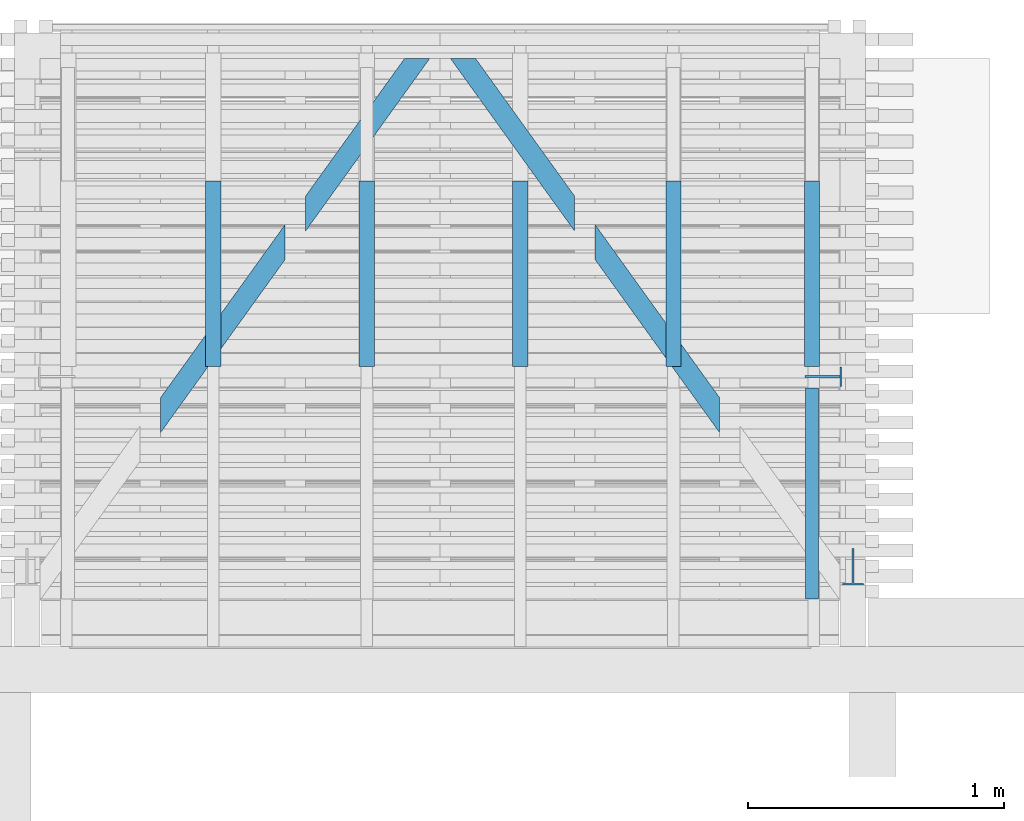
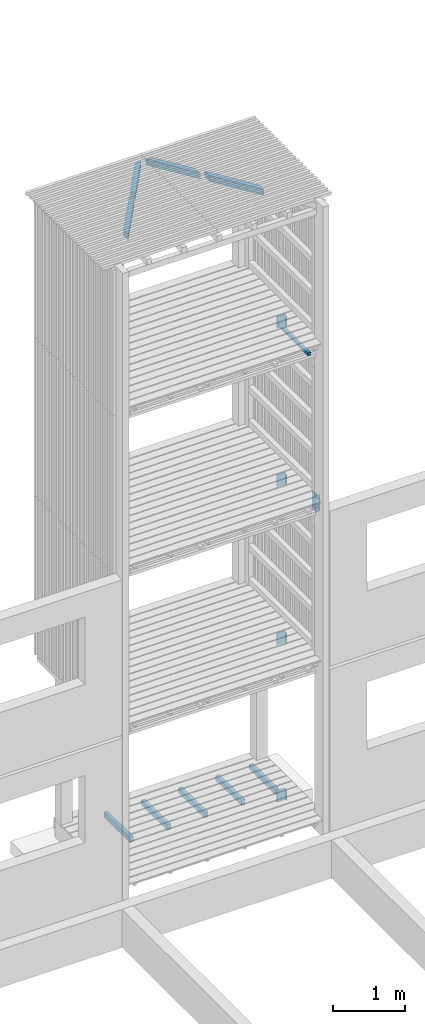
# One storey, part 163 of 182: 15 beams.
"""IFC2X3 building model written with IfcOpenShell, lengths in metres."""

from ifc_helpers import new_model, si_unit, frame, origin, place, context, project, spatial, faceted_brep, element, save


model = new_model("IFC2X3")

# Units and contexts
model_context = context("Model", 3, precision=1e-06, world=origin())
ifc_project = project(units=[si_unit("LENGTHUNIT", "METRE"), si_unit("PLANEANGLEUNIT", "RADIAN")], contexts=[model_context])

# Site, building, storey
site = spatial("IfcSite", under=ifc_project, CompositionType="ELEMENT")
building = spatial("IfcBuilding", under=site, CompositionType="ELEMENT")
storey = spatial("IfcBuildingStorey", under=building, Name="vs", CompositionType="ELEMENT", Elevation=-0.85)

# Beams
placement = place(None, origin())
beam_1_placement = place(placement, frame((5.892197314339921, 11.565077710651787, -0.091949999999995), z_axis=(0.0, 0.0, 1.0), x_axis=(0.0, 1.0, 0.0)))
element("IfcBeam", 1, at=beam_1_placement, inside=storey, Name="Solive", context=model_context, shape_type="Brep", body=[
    faceted_brep([(0.0, -0.029999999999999, -0.04805), (0.0, 0.030000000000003, -0.04805), (0.725000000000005, 0.030000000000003, -0.04805), (0.725000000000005, -0.029999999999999, -0.04805), (0.725000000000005, -0.029999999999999, 0.033549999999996), (0.0, -0.029999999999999, 0.048049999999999), (0.0, -0.029999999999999, -0.04805), (0.725000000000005, -0.029999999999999, -0.04805), (0.0, -0.029999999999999, 0.048049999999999), (0.725000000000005, -0.029999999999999, 0.033549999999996), (0.725000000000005, 0.030000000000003, 0.033549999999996), (0.0, 0.030000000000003, 0.048049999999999), (0.0, -0.029999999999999, 0.048049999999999), (0.0, 0.030000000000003, 0.048049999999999), (0.0, 0.030000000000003, -0.04805), (0.0, -0.029999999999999, -0.04805), (0.0, 0.030000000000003, -0.04805), (0.0, 0.030000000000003, 0.048049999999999), (0.725000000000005, 0.030000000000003, 0.033549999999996), (0.725000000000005, 0.030000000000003, -0.04805), (0.725000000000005, -0.029999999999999, 0.033549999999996), (0.725000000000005, -0.029999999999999, -0.04805), (0.725000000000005, 0.030000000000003, -0.04805), (0.725000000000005, 0.030000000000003, 0.033549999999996)], [[[0, 1, 2, 3]], [[4, 5, 6, 7]], [[8, 9, 10, 11]], [[12, 13, 14, 15]], [[16, 17, 18, 19]], [[20, 21, 22, 23]]]),
])
beam_2_placement = place(placement, frame((6.478197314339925, 11.525077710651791, 7.839999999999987), z_axis=(-1.0, 0.0, 0.0), x_axis=(0.0, 0.0, 1.0)))
element("IfcBeam", 2, at=beam_2_placement, inside=storey, Name="Contre-usinage", context=model_context, shape_type="Brep", body=[
    faceted_brep([(0.200000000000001, 0.003999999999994, -0.065999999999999), (0.200000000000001, -0.004000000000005, -0.065999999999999), (0.175000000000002, -0.004000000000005, -0.065999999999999), (0.175000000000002, 0.003999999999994, -0.065999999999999), (2e-15, 0.003999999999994, -0.065999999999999), (0.175000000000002, 0.003999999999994, -0.065999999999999), (0.175000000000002, 0.037999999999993, -0.065999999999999), (2e-15, 0.037999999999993, -0.065999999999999), (2e-15, -0.038000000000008, -0.065999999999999), (0.175000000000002, -0.038000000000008, -0.065999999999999), (0.175000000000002, -0.004000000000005, -0.065999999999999), (2e-15, -0.004000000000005, -0.065999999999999), (2e-15, -0.004000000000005, 0.071000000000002), (2e-15, -0.004000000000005, -0.065999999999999), (0.175000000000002, -0.004000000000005, -0.065999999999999), (0.200000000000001, -0.004000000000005, -0.065999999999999), (0.200000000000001, -0.004000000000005, 0.071000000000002), (2e-15, 0.003999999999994, 0.071000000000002), (2e-15, -0.004000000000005, 0.071000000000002), (0.200000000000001, -0.004000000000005, 0.071000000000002), (0.200000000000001, 0.003999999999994, 0.071000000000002), (2e-15, 0.037999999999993, -0.071000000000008), (0.175000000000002, 0.037999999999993, -0.071000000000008), (0.175000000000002, -0.038000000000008, -0.071000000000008), (2e-15, -0.038000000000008, -0.071000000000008), (0.175000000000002, -0.038000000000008, -0.071000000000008), (0.175000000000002, 0.037999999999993, -0.071000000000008), (0.175000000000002, 0.037999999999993, -0.065999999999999), (0.175000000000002, 0.003999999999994, -0.065999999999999), (0.175000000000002, -0.004000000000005, -0.065999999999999), (0.175000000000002, -0.038000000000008, -0.065999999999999), (0.200000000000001, 0.003999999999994, -0.065999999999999), (0.175000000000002, 0.003999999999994, -0.065999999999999), (2e-15, 0.003999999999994, -0.065999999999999), (2e-15, 0.003999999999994, 0.071000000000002), (0.200000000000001, 0.003999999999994, 0.071000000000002), (0.200000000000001, 0.003999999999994, 0.071000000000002), (0.200000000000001, -0.004000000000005, 0.071000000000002), (0.200000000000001, -0.004000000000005, -0.065999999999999), (0.200000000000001, 0.003999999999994, -0.065999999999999), (2e-15, 0.037999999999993, -0.065999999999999), (0.175000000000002, 0.037999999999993, -0.065999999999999), (0.175000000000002, 0.037999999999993, -0.071000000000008), (2e-15, 0.037999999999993, -0.071000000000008), (2e-15, 0.037999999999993, -0.071000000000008), (2e-15, -0.038000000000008, -0.071000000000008), (2e-15, -0.038000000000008, -0.065999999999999), (2e-15, -0.004000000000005, -0.065999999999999), (2e-15, -0.004000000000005, 0.071000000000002), (2e-15, 0.003999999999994, 0.071000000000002), (2e-15, 0.003999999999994, -0.065999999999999), (2e-15, 0.037999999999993, -0.065999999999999), (2e-15, -0.038000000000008, -0.065999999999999), (2e-15, -0.038000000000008, -0.071000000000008), (0.175000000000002, -0.038000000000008, -0.071000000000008), (0.175000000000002, -0.038000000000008, -0.065999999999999)], [[[0, 1, 2, 3]], [[4, 5, 6, 7]], [[8, 9, 10, 11]], [[12, 13, 14, 15, 16]], [[17, 18, 19, 20]], [[21, 22, 23, 24]], [[25, 26, 27, 28, 29, 30]], [[31, 32, 33, 34, 35]], [[36, 37, 38, 39]], [[40, 41, 42, 43]], [[44, 45, 46, 47, 48, 49, 50, 51]], [[52, 53, 54, 55]]]),
])
beam_3_placement = place(placement, frame((5.292197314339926, 11.565077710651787, -0.091949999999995), z_axis=(0.0, 0.0, 1.0), x_axis=(0.0, 1.0, 0.0)))
element("IfcBeam", 3, at=beam_3_placement, inside=storey, Name="Solive", context=model_context, shape_type="Brep", body=[
    faceted_brep([(0.0, -0.030000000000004, -0.04805), (0.0, 0.029999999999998, -0.04805), (0.725000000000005, 0.029999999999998, -0.04805), (0.725000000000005, -0.030000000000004, -0.04805), (0.725000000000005, -0.030000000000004, 0.033549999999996), (0.0, -0.030000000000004, 0.048049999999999), (0.0, -0.030000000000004, -0.04805), (0.725000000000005, -0.030000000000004, -0.04805), (0.0, -0.030000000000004, 0.048049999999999), (0.725000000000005, -0.030000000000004, 0.033549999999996), (0.725000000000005, 0.029999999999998, 0.033549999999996), (0.0, 0.029999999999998, 0.048049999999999), (0.0, -0.030000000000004, 0.048049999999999), (0.0, 0.029999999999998, 0.048049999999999), (0.0, 0.029999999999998, -0.04805), (0.0, -0.030000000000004, -0.04805), (0.0, 0.029999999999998, -0.04805), (0.0, 0.029999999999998, 0.048049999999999), (0.725000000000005, 0.029999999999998, 0.033549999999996), (0.725000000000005, 0.029999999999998, -0.04805), (0.725000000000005, -0.030000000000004, 0.033549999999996), (0.725000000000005, -0.030000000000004, -0.04805), (0.725000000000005, 0.029999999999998, -0.04805), (0.725000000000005, 0.029999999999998, 0.033549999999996)], [[[0, 1, 2, 3]], [[4, 5, 6, 7]], [[8, 9, 10, 11]], [[12, 13, 14, 15]], [[16, 17, 18, 19]], [[20, 21, 22, 23]]]),
])
beam_4_placement = place(placement, frame((5.538335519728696, 12.116889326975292, 10.404999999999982), z_axis=(0.0, 0.0, 1.0), x_axis=(-0.583951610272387, 0.811788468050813, 0.0)))
element("IfcBeam", 4, at=beam_4_placement, inside=storey, Name="Support bardage", context=model_context, shape_type="Brep", body=[
    faceted_brep([(0.0, 0.040000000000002, 0.050000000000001), (0.0, 0.040000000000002, -0.050000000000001), (0.1112131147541, -0.039999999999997, -0.050000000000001), (0.1112131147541, -0.039999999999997, 0.050000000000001), (0.775855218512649, -0.039999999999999, 0.050000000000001), (0.83340238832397, 0.040000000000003, 0.050000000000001), (0.0, 0.040000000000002, 0.050000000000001), (0.1112131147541, -0.039999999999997, 0.050000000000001), (0.83340238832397, 0.040000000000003, -0.049999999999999), (0.775855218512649, -0.039999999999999, -0.050000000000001), (0.1112131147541, -0.039999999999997, -0.050000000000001), (0.0, 0.040000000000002, -0.050000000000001), (0.0, 0.040000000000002, 0.050000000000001), (0.83340238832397, 0.040000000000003, 0.050000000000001), (0.83340238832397, 0.040000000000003, -0.049999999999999), (0.0, 0.040000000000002, -0.050000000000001), (0.83340238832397, 0.040000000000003, 0.050000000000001), (0.775855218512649, -0.039999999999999, 0.050000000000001), (0.775855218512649, -0.039999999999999, -0.050000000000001), (0.83340238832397, 0.040000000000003, -0.049999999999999), (0.1112131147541, -0.039999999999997, -0.050000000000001), (0.775855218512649, -0.039999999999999, -0.050000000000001), (0.775855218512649, -0.039999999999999, 0.050000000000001), (0.1112131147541, -0.039999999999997, 0.050000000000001)], [[[0, 1, 2, 3]], [[4, 5, 6, 7]], [[8, 9, 10, 11]], [[12, 13, 14, 15]], [[16, 17, 18, 19]], [[20, 21, 22, 23]]]),
])
beam_5_placement = place(placement, frame((6.105002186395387, 11.329129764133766, 10.404999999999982), z_axis=(0.0, 0.0, 1.0), x_axis=(-0.583951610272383, 0.811788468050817, 0.0)))
element("IfcBeam", 5, at=beam_5_placement, inside=storey, Name="Support bardage", context=model_context, shape_type="Brep", body=[
    faceted_brep([(0.111213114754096, -0.040000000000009, -0.050000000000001), (0.111213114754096, -0.040000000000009, 0.050000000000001), (-1e-14, 0.039999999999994, 0.050000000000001), (-1e-14, 0.039999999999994, -0.050000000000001), (0.833402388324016, 0.040000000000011, -0.050000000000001), (0.94461550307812, -0.039999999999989, -0.050000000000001), (0.111213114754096, -0.040000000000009, -0.050000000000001), (-1e-14, 0.039999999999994, -0.050000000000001), (0.833402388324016, 0.040000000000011, 0.050000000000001), (0.833402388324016, 0.040000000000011, -0.050000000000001), (-1e-14, 0.039999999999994, -0.050000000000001), (-1e-14, 0.039999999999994, 0.050000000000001), (0.111213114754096, -0.040000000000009, -0.050000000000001), (0.94461550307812, -0.039999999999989, -0.050000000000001), (0.94461550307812, -0.039999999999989, 0.050000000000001), (0.111213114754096, -0.040000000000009, 0.050000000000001), (0.111213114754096, -0.040000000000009, 0.050000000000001), (0.94461550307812, -0.039999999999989, 0.050000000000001), (0.833402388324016, 0.040000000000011, 0.050000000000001), (-1e-14, 0.039999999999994, 0.050000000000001), (0.94461550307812, -0.039999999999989, -0.050000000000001), (0.833402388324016, 0.040000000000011, -0.050000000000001), (0.833402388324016, 0.040000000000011, 0.050000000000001), (0.94461550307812, -0.039999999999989, 0.050000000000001)], [[[0, 1, 2, 3]], [[4, 5, 6, 7]], [[8, 9, 10, 11]], [[12, 13, 14, 15]], [[16, 17, 18, 19]], [[20, 21, 22, 23]]]),
])
beam_6_placement = place(placement, frame((4.692197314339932, 11.565077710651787, -0.091949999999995), z_axis=(0.0, 0.0, 1.0), x_axis=(0.0, 1.0, 0.0)))
element("IfcBeam", 6, at=beam_6_placement, inside=storey, Name="Solive", context=model_context, shape_type="Brep", body=[
    faceted_brep([(0.0, -0.029999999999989, -0.04805), (0.0, 0.029999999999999, -0.04805), (0.725000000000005, 0.029999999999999, -0.04805), (0.725000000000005, -0.030000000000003, -0.04805), (0.725000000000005, -0.029999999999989, 0.033549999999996), (0.0, -0.029999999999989, 0.048049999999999), (0.0, -0.029999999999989, -0.04805), (0.725000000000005, -0.030000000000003, -0.04805), (0.0, -0.029999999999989, 0.048049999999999), (0.725000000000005, -0.029999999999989, 0.033549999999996), (0.725000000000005, 0.029999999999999, 0.033549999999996), (0.0, 0.029999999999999, 0.048049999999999), (0.0, -0.029999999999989, 0.048049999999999), (0.0, 0.029999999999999, 0.048049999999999), (0.0, 0.029999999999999, -0.04805), (0.0, -0.029999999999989, -0.04805), (0.0, 0.029999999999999, -0.04805), (0.0, 0.029999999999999, 0.048049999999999), (0.725000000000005, 0.029999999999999, 0.033549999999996), (0.725000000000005, 0.029999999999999, -0.04805), (0.725000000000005, -0.029999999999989, 0.033549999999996), (0.725000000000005, -0.030000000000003, -0.04805), (0.725000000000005, 0.029999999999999, -0.04805), (0.725000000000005, 0.029999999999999, 0.033549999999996)], [[[0, 1, 2, 3]], [[4, 5, 6, 7]], [[8, 9, 10, 11]], [[12, 13, 14, 15]], [[16, 17, 18, 19]], [[20, 21, 22, 23]]]),
])
beam_7_placement = place(placement, frame((6.434197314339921, 11.565077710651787, -0.091949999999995), z_axis=(0.0, 0.0, 1.0), x_axis=(0.0, 1.0, 0.0)))
element("IfcBeam", 7, at=beam_7_placement, inside=storey, Name="Solive", context=model_context, shape_type="Brep", body=[
    faceted_brep([(0.0, -0.03, -0.04805), (0.0, 0.030000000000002, -0.04805), (0.725000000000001, 0.030000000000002, -0.04805), (0.725000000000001, -0.03, -0.04805), (0.725000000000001, -0.03, 0.033549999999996), (0.0, -0.03, 0.048049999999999), (0.0, -0.03, -0.04805), (0.725000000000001, -0.03, -0.04805), (0.0, -0.03, 0.048049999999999), (0.725000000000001, -0.03, 0.033549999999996), (0.725000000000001, 0.030000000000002, 0.033549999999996), (0.0, 0.030000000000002, 0.048049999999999), (0.0, -0.03, 0.048049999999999), (0.0, 0.030000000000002, 0.048049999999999), (0.0, 0.030000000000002, -0.04805), (0.0, -0.03, -0.04805), (0.0, 0.030000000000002, -0.04805), (0.0, 0.030000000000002, 0.048049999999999), (0.725000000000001, 0.030000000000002, 0.033549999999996), (0.725000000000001, 0.030000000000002, -0.04805), (0.725000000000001, -0.03, 0.033549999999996), (0.725000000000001, -0.03, -0.04805), (0.725000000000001, 0.030000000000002, -0.04805), (0.725000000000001, 0.030000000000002, 0.033549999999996)], [[[0, 1, 2, 3]], [[4, 5, 6, 7]], [[8, 9, 10, 11]], [[12, 13, 14, 15]], [[16, 17, 18, 19]], [[20, 21, 22, 23]]]),
])
beam_8_placement = place(placement, frame((4.092197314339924, 11.565077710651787, -0.091949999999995), z_axis=(0.0, 0.0, 1.0), x_axis=(0.0, 1.0, 0.0)))
element("IfcBeam", 8, at=beam_8_placement, inside=storey, Name="Solive", context=model_context, shape_type="Brep", body=[
    faceted_brep([(0.0, -0.030000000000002, -0.04805), (0.0, 0.030000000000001, -0.04805), (0.725000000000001, 0.030000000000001, -0.04805), (0.725000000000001, -0.030000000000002, -0.04805), (0.725000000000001, -0.030000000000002, 0.033549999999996), (0.0, -0.030000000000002, 0.048049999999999), (0.0, -0.030000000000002, -0.04805), (0.725000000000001, -0.030000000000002, -0.04805), (0.0, -0.030000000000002, 0.048049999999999), (0.725000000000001, -0.030000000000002, 0.033549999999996), (0.725000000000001, 0.030000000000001, 0.033549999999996), (0.0, 0.030000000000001, 0.048049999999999), (0.0, -0.030000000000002, 0.048049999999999), (0.0, 0.030000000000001, 0.048049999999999), (0.0, 0.030000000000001, -0.04805), (0.0, -0.030000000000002, -0.04805), (0.0, 0.030000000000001, -0.04805), (0.0, 0.030000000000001, 0.048049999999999), (0.725000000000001, 0.030000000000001, 0.033549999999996), (0.725000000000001, 0.030000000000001, -0.04805), (0.725000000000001, -0.030000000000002, 0.033549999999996), (0.725000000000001, -0.030000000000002, -0.04805), (0.725000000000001, 0.030000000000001, -0.04805), (0.725000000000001, 0.030000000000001, 0.033549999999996)], [[[0, 1, 2, 3]], [[4, 5, 6, 7]], [[8, 9, 10, 11]], [[12, 13, 14, 15]], [[16, 17, 18, 19]], [[20, 21, 22, 23]]]),
])
beam_9_placement = place(placement, frame((6.478197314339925, 11.525077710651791, 5.139999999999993), z_axis=(-1.0, 0.0, 0.0), x_axis=(0.0, 0.0, 1.0)))
element("IfcBeam", 9, at=beam_9_placement, inside=storey, Name="Contre-usinage", context=model_context, shape_type="Brep", body=[
    faceted_brep([(0.2, 0.003999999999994, -0.065999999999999), (0.2, -0.004000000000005, -0.065999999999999), (0.174999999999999, -0.004000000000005, -0.065999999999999), (0.174999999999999, 0.003999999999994, -0.065999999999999), (0.0, 0.003999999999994, -0.065999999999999), (0.174999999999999, 0.003999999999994, -0.065999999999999), (0.174999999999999, 0.037999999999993, -0.065999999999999), (0.0, 0.037999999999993, -0.065999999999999), (0.0, -0.038000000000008, -0.065999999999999), (0.174999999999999, -0.038000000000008, -0.065999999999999), (0.174999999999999, -0.004000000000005, -0.065999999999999), (0.0, -0.004000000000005, -0.065999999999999), (0.0, -0.004000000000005, 0.071000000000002), (0.0, -0.004000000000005, -0.065999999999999), (0.174999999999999, -0.004000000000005, -0.065999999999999), (0.2, -0.004000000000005, -0.065999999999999), (0.2, -0.004000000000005, 0.071000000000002), (0.0, 0.003999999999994, 0.071000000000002), (0.0, -0.004000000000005, 0.071000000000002), (0.2, -0.004000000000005, 0.071000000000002), (0.2, 0.003999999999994, 0.071000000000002), (0.0, 0.037999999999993, -0.070999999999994), (0.174999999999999, 0.037999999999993, -0.070999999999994), (0.174999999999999, -0.038000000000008, -0.070999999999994), (0.0, -0.038000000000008, -0.070999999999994), (0.174999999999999, -0.038000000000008, -0.070999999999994), (0.174999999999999, 0.037999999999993, -0.070999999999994), (0.174999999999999, 0.037999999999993, -0.065999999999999), (0.174999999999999, 0.003999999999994, -0.065999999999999), (0.174999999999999, -0.004000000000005, -0.065999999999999), (0.174999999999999, -0.038000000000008, -0.065999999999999), (0.2, 0.003999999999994, -0.065999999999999), (0.174999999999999, 0.003999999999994, -0.065999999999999), (0.0, 0.003999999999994, -0.065999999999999), (0.0, 0.003999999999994, 0.071000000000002), (0.2, 0.003999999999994, 0.071000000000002), (0.2, 0.003999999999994, 0.071000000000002), (0.2, -0.004000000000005, 0.071000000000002), (0.2, -0.004000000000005, -0.065999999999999), (0.2, 0.003999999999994, -0.065999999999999), (0.0, 0.037999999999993, -0.065999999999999), (0.174999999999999, 0.037999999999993, -0.065999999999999), (0.174999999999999, 0.037999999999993, -0.070999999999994), (0.0, 0.037999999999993, -0.070999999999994), (0.0, 0.037999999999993, -0.070999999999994), (0.0, -0.038000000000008, -0.070999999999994), (0.0, -0.038000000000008, -0.065999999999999), (0.0, -0.004000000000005, -0.065999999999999), (0.0, -0.004000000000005, 0.071000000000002), (0.0, 0.003999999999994, 0.071000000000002), (0.0, 0.003999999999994, -0.065999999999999), (0.0, 0.037999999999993, -0.065999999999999), (0.0, -0.038000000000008, -0.065999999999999), (0.0, -0.038000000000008, -0.070999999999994), (0.174999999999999, -0.038000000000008, -0.070999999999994), (0.174999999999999, -0.038000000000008, -0.065999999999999)], [[[0, 1, 2, 3]], [[4, 5, 6, 7]], [[8, 9, 10, 11]], [[12, 13, 14, 15, 16]], [[17, 18, 19, 20]], [[21, 22, 23, 24]], [[25, 26, 27, 28, 29, 30]], [[31, 32, 33, 34, 35]], [[36, 37, 38, 39]], [[40, 41, 42, 43]], [[44, 45, 46, 47, 48, 49, 50, 51]], [[52, 53, 54, 55]]]),
])
beam_10_placement = place(placement, frame((6.478197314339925, 11.525077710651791, 2.439999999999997), z_axis=(-1.0, 0.0, 0.0), x_axis=(0.0, 0.0, 1.0)))
element("IfcBeam", 10, at=beam_10_placement, inside=storey, Name="Contre-usinage", context=model_context, shape_type="Brep", body=[
    faceted_brep([(0.2, 0.003999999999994, -0.065999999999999), (0.2, -0.004000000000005, -0.065999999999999), (0.175, -0.004000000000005, -0.065999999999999), (0.175, 0.003999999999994, -0.065999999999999), (0.0, 0.003999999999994, -0.065999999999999), (0.175, 0.003999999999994, -0.065999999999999), (0.175, 0.037999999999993, -0.065999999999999), (0.0, 0.037999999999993, -0.065999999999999), (0.0, -0.038000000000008, -0.065999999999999), (0.175, -0.038000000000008, -0.065999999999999), (0.175, -0.004000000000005, -0.065999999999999), (0.0, -0.004000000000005, -0.065999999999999), (0.0, -0.004000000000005, 0.071000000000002), (0.0, -0.004000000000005, -0.065999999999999), (0.175, -0.004000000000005, -0.065999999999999), (0.2, -0.004000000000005, -0.065999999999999), (0.2, -0.004000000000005, 0.071000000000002), (0.0, 0.003999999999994, 0.071000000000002), (0.0, -0.004000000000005, 0.071000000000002), (0.2, -0.004000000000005, 0.071000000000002), (0.2, 0.003999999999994, 0.071000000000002), (0.0, 0.037999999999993, -0.070999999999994), (0.175, 0.037999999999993, -0.070999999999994), (0.175, -0.038000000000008, -0.070999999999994), (0.0, -0.038000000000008, -0.070999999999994), (0.175, -0.038000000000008, -0.070999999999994), (0.175, 0.037999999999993, -0.070999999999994), (0.175, 0.037999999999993, -0.065999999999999), (0.175, 0.003999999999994, -0.065999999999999), (0.175, -0.004000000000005, -0.065999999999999), (0.175, -0.038000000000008, -0.065999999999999), (0.2, 0.003999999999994, -0.065999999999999), (0.175, 0.003999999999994, -0.065999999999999), (0.0, 0.003999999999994, -0.065999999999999), (0.0, 0.003999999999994, 0.071000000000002), (0.2, 0.003999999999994, 0.071000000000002), (0.2, 0.003999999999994, 0.071000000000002), (0.2, -0.004000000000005, 0.071000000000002), (0.2, -0.004000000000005, -0.065999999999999), (0.2, 0.003999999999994, -0.065999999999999), (0.0, 0.037999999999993, -0.065999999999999), (0.175, 0.037999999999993, -0.065999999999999), (0.175, 0.037999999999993, -0.070999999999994), (0.0, 0.037999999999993, -0.070999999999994), (0.0, 0.037999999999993, -0.070999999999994), (0.0, -0.038000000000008, -0.070999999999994), (0.0, -0.038000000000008, -0.065999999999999), (0.0, -0.004000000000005, -0.065999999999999), (0.0, -0.004000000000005, 0.071000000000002), (0.0, 0.003999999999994, 0.071000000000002), (0.0, 0.003999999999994, -0.065999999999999), (0.0, 0.037999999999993, -0.065999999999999), (0.0, -0.038000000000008, -0.065999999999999), (0.0, -0.038000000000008, -0.070999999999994), (0.175, -0.038000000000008, -0.070999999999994), (0.175, -0.038000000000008, -0.065999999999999)], [[[0, 1, 2, 3]], [[4, 5, 6, 7]], [[8, 9, 10, 11]], [[12, 13, 14, 15, 16]], [[17, 18, 19, 20]], [[21, 22, 23, 24]], [[25, 26, 27, 28, 29, 30]], [[31, 32, 33, 34, 35]], [[36, 37, 38, 39]], [[40, 41, 42, 43]], [[44, 45, 46, 47, 48, 49, 50, 51]], [[52, 53, 54, 55]]]),
])
beam_11_placement = place(placement, frame((4.420059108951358, 12.116889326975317, 10.404999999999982), z_axis=(0.0, 0.0, 1.0), x_axis=(0.583951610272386, 0.811788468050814, 0.0)))
element("IfcBeam", 11, at=beam_11_placement, inside=storey, Name="Support bardage", context=model_context, shape_type="Brep", body=[
    faceted_brep([(0.775855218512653, 0.039999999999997, -0.050000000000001), (0.775855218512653, 0.039999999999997, 0.050000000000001), (0.833402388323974, -0.040000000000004, 0.050000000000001), (0.833402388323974, -0.040000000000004, -0.049999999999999), (0.833402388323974, -0.040000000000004, -0.049999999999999), (0.833402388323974, -0.040000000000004, 0.050000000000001), (4e-15, -0.040000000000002, 0.050000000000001), (4e-15, -0.040000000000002, -0.050000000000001), (0.775855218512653, 0.039999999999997, -0.050000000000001), (0.833402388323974, -0.040000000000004, -0.049999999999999), (4e-15, -0.040000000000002, -0.050000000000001), (0.111213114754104, 0.039999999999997, -0.050000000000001), (0.775855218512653, 0.039999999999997, 0.050000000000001), (0.775855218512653, 0.039999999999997, -0.050000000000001), (0.111213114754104, 0.039999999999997, -0.050000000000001), (0.111213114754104, 0.039999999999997, 0.050000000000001), (0.833402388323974, -0.040000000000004, 0.050000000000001), (0.775855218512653, 0.039999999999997, 0.050000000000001), (0.111213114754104, 0.039999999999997, 0.050000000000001), (4e-15, -0.040000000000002, 0.050000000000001), (0.111213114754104, 0.039999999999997, -0.050000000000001), (4e-15, -0.040000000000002, -0.050000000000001), (4e-15, -0.040000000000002, 0.050000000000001), (0.111213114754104, 0.039999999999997, 0.050000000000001)], [[[0, 1, 2, 3]], [[4, 5, 6, 7]], [[8, 9, 10, 11]], [[12, 13, 14, 15]], [[16, 17, 18, 19]], [[20, 21, 22, 23]]]),
])
beam_12_placement = place(placement, frame((3.853392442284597, 11.329129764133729, 10.404999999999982), z_axis=(0.0, 0.0, 1.0), x_axis=(0.583951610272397, 0.811788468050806, 0.0)))
element("IfcBeam", 12, at=beam_12_placement, inside=storey, Name="Support bardage", context=model_context, shape_type="Brep", body=[
    faceted_brep([(0.833402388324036, -0.040000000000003, 0.050000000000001), (0.833402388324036, -0.040000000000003, -0.050000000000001), (0.944615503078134, 0.039999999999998, -0.050000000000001), (0.944615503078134, 0.039999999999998, 0.050000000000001), (0.833402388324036, -0.040000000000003, -0.050000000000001), (0.833402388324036, -0.040000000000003, 0.050000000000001), (3e-15, -0.040000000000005, 0.050000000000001), (3e-15, -0.040000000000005, -0.050000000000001), (0.944615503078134, 0.039999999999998, -0.050000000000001), (0.833402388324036, -0.040000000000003, -0.050000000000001), (3e-15, -0.040000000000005, -0.050000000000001), (0.111213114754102, 0.039999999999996, -0.050000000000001), (0.944615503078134, 0.039999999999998, 0.050000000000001), (0.944615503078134, 0.039999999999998, -0.050000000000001), (0.111213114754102, 0.039999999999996, -0.050000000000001), (0.111213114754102, 0.039999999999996, 0.050000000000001), (0.833402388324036, -0.040000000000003, 0.050000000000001), (0.944615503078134, 0.039999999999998, 0.050000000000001), (0.111213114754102, 0.039999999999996, 0.050000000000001), (3e-15, -0.040000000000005, 0.050000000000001), (0.111213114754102, 0.039999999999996, -0.050000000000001), (3e-15, -0.040000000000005, -0.050000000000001), (3e-15, -0.040000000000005, 0.050000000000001), (0.111213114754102, 0.039999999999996, 0.050000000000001)], [[[0, 1, 2, 3]], [[4, 5, 6, 7]], [[8, 9, 10, 11]], [[12, 13, 14, 15]], [[16, 17, 18, 19]], [[20, 21, 22, 23]]]),
])
beam_13_placement = place(placement, frame((6.55319731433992, 10.781077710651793, 5.279999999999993), z_axis=(0.0, 0.0, 1.0), x_axis=(1.0, 0.0, 0.0)))
element("IfcBeam", 13, at=beam_13_placement, inside=storey, Name="Contre-usinage", context=model_context, shape_type="Brep", body=[
    faceted_brep([(0.037000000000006, -0.065999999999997, -0.140000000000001), (0.037000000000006, 0.071, -0.140000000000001), (0.045000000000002, 0.071, -0.140000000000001), (0.045000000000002, -0.065999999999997, -0.140000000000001), (0.082000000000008, -0.066000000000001, -0.140000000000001), (0.082000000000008, -0.071, -0.140000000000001), (0.0, -0.071, -0.140000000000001), (0.0, -0.066000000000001, -0.140000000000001), (0.045000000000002, 0.071, -0.140000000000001), (0.037000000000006, 0.071, -0.140000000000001), (0.037000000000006, 0.071, 0.140000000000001), (0.045000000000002, 0.071, 0.140000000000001), (0.045000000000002, -0.066000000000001, 0.140000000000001), (0.045000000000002, -0.065999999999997, -0.140000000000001), (0.045000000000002, 0.071, -0.140000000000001), (0.045000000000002, 0.071, 0.140000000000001), (0.082000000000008, -0.066000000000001, -0.140000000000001), (0.045000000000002, -0.065999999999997, -0.140000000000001), (0.045000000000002, -0.066000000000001, 0.140000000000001), (0.082000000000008, -0.066000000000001, 0.140000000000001), (0.082000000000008, -0.071, -0.140000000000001), (0.082000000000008, -0.066000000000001, -0.140000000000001), (0.082000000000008, -0.066000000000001, 0.140000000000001), (0.082000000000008, -0.071, 0.140000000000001), (0.0, -0.071, -0.140000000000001), (0.082000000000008, -0.071, -0.140000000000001), (0.082000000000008, -0.071, 0.140000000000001), (0.0, -0.071, 0.140000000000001), (0.0, -0.066000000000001, -0.140000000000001), (0.0, -0.071, -0.140000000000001), (0.0, -0.071, 0.140000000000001), (0.0, -0.066000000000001, 0.140000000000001), (0.037000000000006, -0.065999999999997, -0.140000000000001), (0.0, -0.066000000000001, -0.140000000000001), (0.0, -0.066000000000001, 0.140000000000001), (0.037000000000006, -0.066000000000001, 0.140000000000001), (0.037000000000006, 0.071, 0.140000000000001), (0.037000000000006, 0.071, -0.140000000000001), (0.037000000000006, -0.065999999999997, -0.140000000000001), (0.037000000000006, -0.066000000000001, 0.140000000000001), (0.082000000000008, -0.066000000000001, 0.140000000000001), (0.045000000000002, -0.066000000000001, 0.140000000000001), (0.045000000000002, 0.071, 0.140000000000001), (0.037000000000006, 0.071, 0.140000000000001), (0.037000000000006, -0.066000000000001, 0.140000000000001), (0.0, -0.066000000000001, 0.140000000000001), (0.0, -0.071, 0.140000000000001), (0.082000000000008, -0.071, 0.140000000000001)], [[[0, 1, 2, 3, 4, 5, 6, 7]], [[8, 9, 10, 11]], [[12, 13, 14, 15]], [[16, 17, 18, 19]], [[20, 21, 22, 23]], [[24, 25, 26, 27]], [[28, 29, 30, 31]], [[32, 33, 34, 35]], [[36, 37, 38, 39]], [[40, 41, 42, 43, 44, 45, 46, 47]]]),
])
beam_14_placement = place(placement, frame((6.434197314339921, 10.655077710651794, 7.917999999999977), z_axis=(0.0, 0.0, 1.0), x_axis=(1.8e-14, 1.0, 0.0)))
element("IfcBeam", 14, at=beam_14_placement, inside=storey, Name="Calage", context=model_context, shape_type="Brep", body=[
    faceted_brep([(0.0, -0.025000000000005, 0.024999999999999), (0.824999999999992, -0.02499999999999, 0.024999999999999), (0.824999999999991, 0.025000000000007, 0.024999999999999), (-1e-15, 0.024999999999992, 0.024999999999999), (-1e-15, 0.024999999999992, 0.024999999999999), (0.824999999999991, 0.025000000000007, 0.024999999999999), (0.824999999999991, 0.025000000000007, -0.025), (-1e-15, 0.024999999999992, -0.025), (0.824999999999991, 0.025000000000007, 0.024999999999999), (0.824999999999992, -0.02499999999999, 0.024999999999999), (0.824999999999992, -0.02499999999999, -0.025), (0.824999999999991, 0.025000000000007, -0.025), (0.0, -0.025000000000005, -0.025), (0.824999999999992, -0.02499999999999, -0.025), (0.824999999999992, -0.02499999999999, 0.024999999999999), (0.0, -0.025000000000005, 0.024999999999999), (-1e-15, 0.024999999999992, -0.025), (0.824999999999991, 0.025000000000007, -0.025), (0.824999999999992, -0.02499999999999, -0.025), (0.0, -0.025000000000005, -0.025), (-1e-15, 0.024999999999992, 0.024999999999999), (-1e-15, 0.024999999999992, -0.025), (0.0, -0.025000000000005, -0.025), (0.0, -0.025000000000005, 0.024999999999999)], [[[0, 1, 2, 3]], [[4, 5, 6, 7]], [[8, 9, 10, 11]], [[12, 13, 14, 15]], [[16, 17, 18, 19]], [[20, 21, 22, 23]]]),
])
beam_15_placement = place(placement, frame((6.478197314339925, 11.525077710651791, -0.243899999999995), z_axis=(-1.0, 0.0, 0.0), x_axis=(0.0, 0.0, 1.0)))
element("IfcBeam", 15, at=beam_15_placement, inside=storey, Name="Contre-usinage", context=model_context, shape_type="Brep", body=[
    faceted_brep([(0.2, 0.003999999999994, -0.065999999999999), (0.2, -0.004000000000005, -0.065999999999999), (0.175, -0.004000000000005, -0.065999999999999), (0.175, 0.003999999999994, -0.065999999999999), (0.0, 0.003999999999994, -0.065999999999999), (0.175, 0.003999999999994, -0.065999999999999), (0.175, 0.037999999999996, -0.065999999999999), (0.0, 0.037999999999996, -0.065999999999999), (0.0, -0.038000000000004, -0.065999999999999), (0.175, -0.038000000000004, -0.065999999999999), (0.175, -0.004000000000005, -0.065999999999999), (0.0, -0.004000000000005, -0.065999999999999), (0.0, -0.004000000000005, 0.071000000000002), (0.0, -0.004000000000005, -0.065999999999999), (0.175, -0.004000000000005, -0.065999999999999), (0.2, -0.004000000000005, -0.065999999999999), (0.2, -0.004000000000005, 0.071000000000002), (0.0, 0.003999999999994, 0.071000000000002), (0.0, -0.004000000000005, 0.071000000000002), (0.2, -0.004000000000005, 0.071000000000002), (0.2, 0.003999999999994, 0.071000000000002), (0.0, 0.037999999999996, -0.071000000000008), (0.175, 0.037999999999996, -0.071000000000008), (0.175, -0.038000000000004, -0.071000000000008), (0.0, -0.038000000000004, -0.071000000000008), (0.2, 0.003999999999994, 0.071000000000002), (0.2, -0.004000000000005, 0.071000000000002), (0.2, -0.004000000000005, -0.065999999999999), (0.2, 0.003999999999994, -0.065999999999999), (0.2, 0.003999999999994, -0.065999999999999), (0.175, 0.003999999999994, -0.065999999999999), (0.0, 0.003999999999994, -0.065999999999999), (0.0, 0.003999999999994, 0.071000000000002), (0.2, 0.003999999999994, 0.071000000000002), (0.175, -0.038000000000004, -0.071000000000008), (0.175, 0.037999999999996, -0.071000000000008), (0.175, 0.037999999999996, -0.065999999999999), (0.175, 0.003999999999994, -0.065999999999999), (0.175, -0.004000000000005, -0.065999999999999), (0.175, -0.038000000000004, -0.065999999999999), (0.0, 0.037999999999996, -0.071000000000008), (0.0, -0.038000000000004, -0.071000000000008), (0.0, -0.038000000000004, -0.065999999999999), (0.0, -0.004000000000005, -0.065999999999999), (0.0, -0.004000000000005, 0.071000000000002), (0.0, 0.003999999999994, 0.071000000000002), (0.0, 0.003999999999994, -0.065999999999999), (0.0, 0.037999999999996, -0.065999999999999), (0.0, 0.037999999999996, -0.071000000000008), (0.0, 0.037999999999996, -0.065999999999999), (0.175, 0.037999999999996, -0.065999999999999), (0.175, 0.037999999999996, -0.071000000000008), (0.0, -0.038000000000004, -0.065999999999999), (0.0, -0.038000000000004, -0.071000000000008), (0.175, -0.038000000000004, -0.071000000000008), (0.175, -0.038000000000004, -0.065999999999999)], [[[0, 1, 2, 3]], [[4, 5, 6, 7]], [[8, 9, 10, 11]], [[12, 13, 14, 15, 16]], [[17, 18, 19, 20]], [[21, 22, 23, 24]], [[25, 26, 27, 28]], [[29, 30, 31, 32, 33]], [[34, 35, 36, 37, 38, 39]], [[40, 41, 42, 43, 44, 45, 46, 47]], [[48, 49, 50, 51]], [[52, 53, 54, 55]]]),
])

save(model, "model.ifc")
